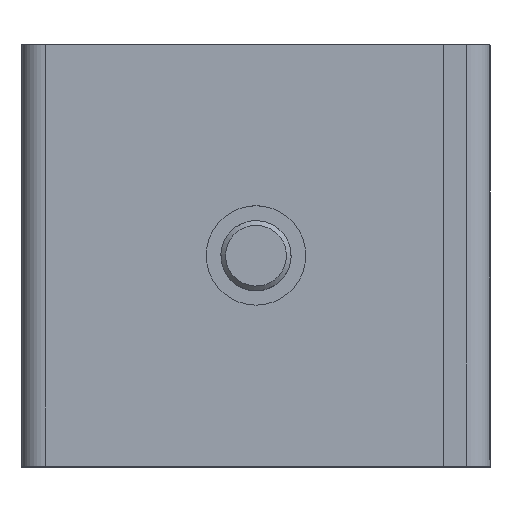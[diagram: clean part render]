
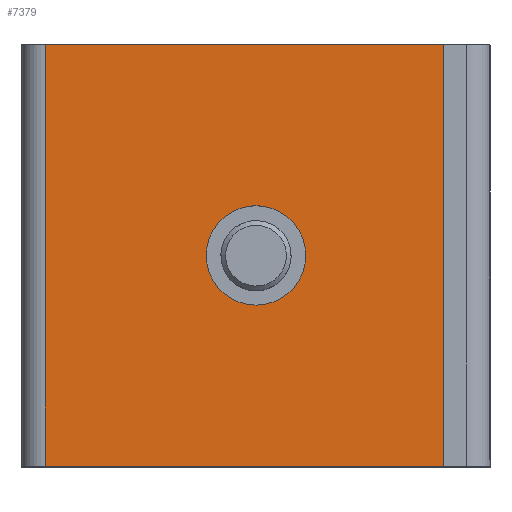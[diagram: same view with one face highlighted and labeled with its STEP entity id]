
A CAD part, top view. The second image highlights one B-rep face of the part: STEP entity #7379.
In plain terms, the highlighted planar face has unit normal (0, 0, 1).
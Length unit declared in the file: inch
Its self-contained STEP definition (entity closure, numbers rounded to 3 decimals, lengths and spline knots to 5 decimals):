
#542=PLANE('',#7839);
#767=LINE('',#9751,#1348);
#776=LINE('',#9772,#1357);
#783=LINE('',#9790,#1364);
#789=LINE('',#9801,#1370);
#1348=VECTOR('',#8282,2.25);
#1357=VECTOR('',#8297,2.125);
#1364=VECTOR('',#8316,2.125);
#1370=VECTOR('',#8324,2.25);
#1931=FACE_BOUND('',#2466,.T.);
#2022=FACE_OUTER_BOUND('',#2465,.T.);
#2465=EDGE_LOOP('',(#4854,#4855,#4856,#4857));
#2466=EDGE_LOOP('',(#4858));
#2980=CIRCLE('',#7824,0.26563);
#3102=VERTEX_POINT('',#9741);
#3105=VERTEX_POINT('',#9749);
#3106=VERTEX_POINT('',#9750);
#3115=VERTEX_POINT('',#9770);
#3120=VERTEX_POINT('',#9789);
#3778=EDGE_CURVE('',#3102,#3102,#2980,.T.);
#3781=EDGE_CURVE('',#3105,#3106,#767,.T.);
#3792=EDGE_CURVE('',#3115,#3106,#776,.T.);
#3801=EDGE_CURVE('',#3105,#3120,#783,.T.);
#3807=EDGE_CURVE('',#3120,#3115,#789,.T.);
#4854=ORIENTED_EDGE('',*,*,#3781,.T.);
#4855=ORIENTED_EDGE('',*,*,#3792,.F.);
#4856=ORIENTED_EDGE('',*,*,#3807,.F.);
#4857=ORIENTED_EDGE('',*,*,#3801,.F.);
#4858=ORIENTED_EDGE('',*,*,#3778,.T.);
#7379=ADVANCED_FACE('',(#2022,#1931),#542,.F.);
#7824=AXIS2_PLACEMENT_3D('',#9742,#8272,#8273);
#7839=AXIS2_PLACEMENT_3D('',#9803,#8326,#8327);
#8272=DIRECTION('center_axis',(0.,0.,
-1.));
#8273=DIRECTION('ref_axis',(1.,0.,0.));
#8282=DIRECTION('',(0.,-1.,0.));
#8297=DIRECTION('',(-1.,0.,0.));
#8316=DIRECTION('',(1.,0.,0.));
#8324=DIRECTION('',(0.,-1.,0.));
#8326=DIRECTION('center_axis',(0.,0.,
-1.));
#8327=DIRECTION('ref_axis',(-1.,0.,0.));
#9741=CARTESIAN_POINT('',(0.26563,0.,3.5));
#9742=CARTESIAN_POINT('Origin',(0.,0.,
3.5));
#9749=CARTESIAN_POINT('',(-1.125,1.125,3.5));
#9750=CARTESIAN_POINT('',(-1.125,-1.125,3.5));
#9751=CARTESIAN_POINT('',(-1.125,0.,3.5));
#9770=CARTESIAN_POINT('',(1.,-1.125,3.5));
#9772=CARTESIAN_POINT('',(-1.40774,-1.125,3.5));
#9789=CARTESIAN_POINT('',(1.,1.125,3.5));
#9790=CARTESIAN_POINT('',(-1.125,1.125,3.5));
#9801=CARTESIAN_POINT('',(1.,1.125,3.5));
#9803=CARTESIAN_POINT('Origin',(-0.13319,0.,
3.5));
